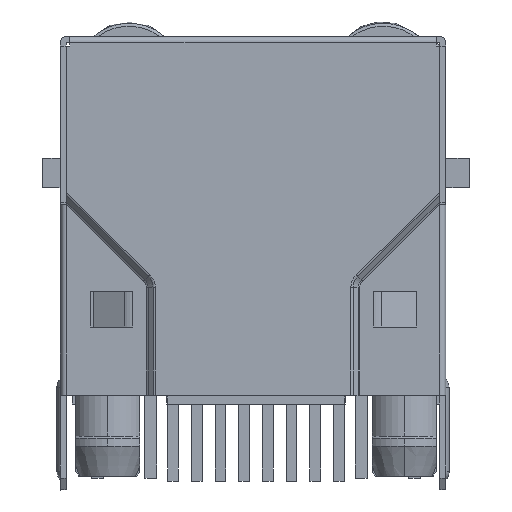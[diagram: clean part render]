
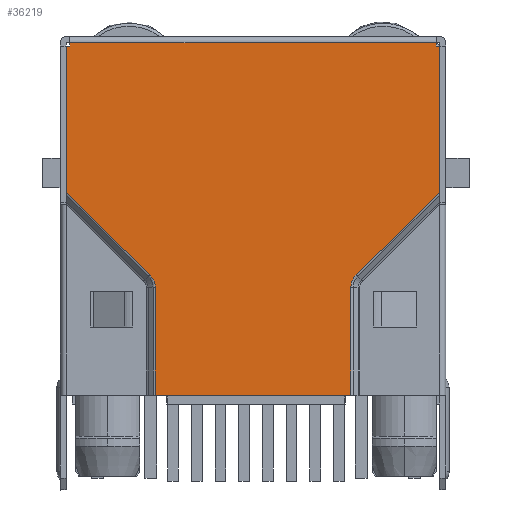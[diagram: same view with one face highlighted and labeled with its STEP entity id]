
A CAD part, front view. The second image highlights one B-rep face of the part: STEP entity #36219.
In plain terms, the highlighted planar face has unit normal (0, -1, 0).
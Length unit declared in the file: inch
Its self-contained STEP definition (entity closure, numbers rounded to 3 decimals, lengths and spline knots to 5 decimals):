
#2329 = CARTESIAN_POINT ( 'NONE',  ( 0.309, -0.267, 0.3428 ) ) ;
#4173 = FACE_OUTER_BOUND ( 'NONE', #66199, .T. ) ;
#4798 = DIRECTION ( 'NONE',  ( -1., 0., 0. ) ) ;
#5114 = CARTESIAN_POINT ( 'NONE',  ( -0.31393, -0.267, 0.3428 ) ) ;
#5221 = CARTESIAN_POINT ( 'NONE',  ( -0.17, -0.267, -0.06435 ) ) ;
#6119 = EDGE_CURVE ( 'NONE', #28499, #51978, #16279, .T. ) ;
#6161 = PLANE ( 'NONE',  #34336 ) ;
#6546 = VECTOR ( 'NONE', #22246, 39.37008 ) ;
#7888 = CARTESIAN_POINT ( 'NONE',  ( 0.309, -0.267, -0.24613 ) ) ;
#8017 = VERTEX_POINT ( 'NONE', #24088 ) ;
#8038 = VECTOR ( 'NONE', #43472, 39.37008 ) ;
#8440 = DIRECTION ( 'NONE',  ( 0., 0., -1. ) ) ;
#9686 = VERTEX_POINT ( 'NONE', #40848 ) ;
#9905 = CARTESIAN_POINT ( 'NONE',  ( 0.16004, -0.267, -0.05634 ) ) ;
#10605 = LINE ( 'NONE', #26079, #35769 ) ;
#12004 = CARTESIAN_POINT ( 'NONE',  ( 0.30393, -0.267, -0.24613 ) ) ;
#12028 = CARTESIAN_POINT ( 'NONE',  ( -0.31393, -0.267, 0.34887 ) ) ;
#12135 = ORIENTED_EDGE ( 'NONE', *, *, #49305, .T. ) ;
#14713 = VECTOR ( 'NONE', #18457, 39.37008 ) ;
#14862 = CARTESIAN_POINT ( 'NONE',  ( 0.16888, -0.267, -0.04305 ) ) ;
#14997 = DIRECTION ( 'NONE',  ( 0., 0., 1. ) ) ;
#15912 = DIRECTION ( 'NONE',  ( -1., 0., 0. ) ) ;
#16150 = DIRECTION ( 'NONE',  ( 0., 0., -1. ) ) ;
#16279 = B_SPLINE_CURVE_WITH_KNOTS ( 'NONE', 3,
 ( #25052, #9905, #46209, #14862 ),
 .UNSPECIFIED., .F., .F.,
 ( 4, 4 ),
 ( 0., 1. ),
 .UNSPECIFIED. ) ;
#18457 = DIRECTION ( 'NONE',  ( 1., 0., 0. ) ) ;
#18504 = ORIENTED_EDGE ( 'NONE', *, *, #44318, .T. ) ;
#19200 = EDGE_CURVE ( 'NONE', #19204, #22280, #51598, .T. ) ;
#19204 = VERTEX_POINT ( 'NONE', #43837 ) ;
#19415 = ORIENTED_EDGE ( 'NONE', *, *, #35134, .T. ) ;
#20129 = CARTESIAN_POINT ( 'NONE',  ( -0.17004, -0.267, -0.0562 ) ) ;
#20811 = CARTESIAN_POINT ( 'NONE',  ( 0.16, -0.267, -0.24613 ) ) ;
#21183 = LINE ( 'NONE', #7888, #14713 ) ;
#21765 = LINE ( 'NONE', #2329, #8038 ) ;
#21774 = EDGE_CURVE ( 'NONE', #42770, #8017, #34918, .T. ) ;
#22246 = DIRECTION ( 'NONE',  ( 0., 0., -1. ) ) ;
#22280 = VERTEX_POINT ( 'NONE', #33316 ) ;
#22800 = DIRECTION ( 'NONE',  ( 0.71, 0., 0.704 ) ) ;
#24088 = CARTESIAN_POINT ( 'NONE',  ( -0.319, -0.267, 0.09587 ) ) ;
#24449 = CARTESIAN_POINT ( 'NONE',  ( 0.16888, -0.267, -0.04305 ) ) ;
#24624 = ORIENTED_EDGE ( 'NONE', *, *, #32578, .T. ) ;
#24898 = VECTOR ( 'NONE', #4798, 39.37008 ) ;
#24977 = CARTESIAN_POINT ( 'NONE',  ( 0.309, -0.267, 0.3428 ) ) ;
#25052 = CARTESIAN_POINT ( 'NONE',  ( 0.16, -0.267, -0.06435 ) ) ;
#26079 = CARTESIAN_POINT ( 'NONE',  ( 0.309, -0.267, 0.34887 ) ) ;
#26166 = DIRECTION ( 'NONE',  ( 0.71, 0., -0.704 ) ) ;
#27968 = VECTOR ( 'NONE', #26166, 39.37008 ) ;
#28499 = VERTEX_POINT ( 'NONE', #30786 ) ;
#28583 = LINE ( 'NONE', #12004, #53807 ) ;
#29331 = VERTEX_POINT ( 'NONE', #5114 ) ;
#29523 = ORIENTED_EDGE ( 'NONE', *, *, #65834, .T. ) ;
#30368 = LINE ( 'NONE', #61792, #27968 ) ;
#30786 = CARTESIAN_POINT ( 'NONE',  ( 0.16, -0.267, -0.06435 ) ) ;
#30880 = ORIENTED_EDGE ( 'NONE', *, *, #19200, .T. ) ;
#31283 = CARTESIAN_POINT ( 'NONE',  ( -0.17888, -0.267, -0.04305 ) ) ;
#32578 = EDGE_CURVE ( 'NONE', #54998, #44197, #28583, .T. ) ;
#33316 = CARTESIAN_POINT ( 'NONE',  ( 0.309, -0.267, 0.3428 ) ) ;
#33510 = ORIENTED_EDGE ( 'NONE', *, *, #61833, .T. ) ;
#33568 = CARTESIAN_POINT ( 'NONE',  ( 0.309, -0.267, -0.24613 ) ) ;
#33927 = VECTOR ( 'NONE', #8440, 39.37008 ) ;
#34336 = AXIS2_PLACEMENT_3D ( 'NONE', #62913, #47277, #16150 ) ;
#34585 = EDGE_CURVE ( 'NONE', #62192, #29331, #49434, .T. ) ;
#34918 = LINE ( 'NONE', #54233, #6546 ) ;
#35134 = EDGE_CURVE ( 'NONE', #51978, #19204, #43554, .T. ) ;
#35769 = VECTOR ( 'NONE', #15912, 39.37008 ) ;
#36116 = VECTOR ( 'NONE', #46570, 39.37008 ) ;
#36219 = ADVANCED_FACE ( 'NONE', ( #4173 ), #6161, .T. ) ;
#36387 = CARTESIAN_POINT ( 'NONE',  ( 0.30393, -0.267, 0.3428 ) ) ;
#36945 = ORIENTED_EDGE ( 'NONE', *, *, #6119, .T. ) ;
#37886 = LINE ( 'NONE', #24977, #24898 ) ;
#38040 = DIRECTION ( 'NONE',  ( 0., 0., 1. ) ) ;
#38395 = LINE ( 'NONE', #66988, #48968 ) ;
#39635 = CARTESIAN_POINT ( 'NONE',  ( -0.17, -0.267, -0.24613 ) ) ;
#40423 = VERTEX_POINT ( 'NONE', #31283 ) ;
#40848 = CARTESIAN_POINT ( 'NONE',  ( -0.17, -0.267, -0.06435 ) ) ;
#41564 = CARTESIAN_POINT ( 'NONE',  ( -0.17, -0.267, -0.24613 ) ) ;
#41769 = ORIENTED_EDGE ( 'NONE', *, *, #65334, .T. ) ;
#42770 = VERTEX_POINT ( 'NONE', #60703 ) ;
#42927 = ORIENTED_EDGE ( 'NONE', *, *, #49026, .T. ) ;
#43472 = DIRECTION ( 'NONE',  ( -1., 0., 0. ) ) ;
#43554 = LINE ( 'NONE', #53922, #50011 ) ;
#43837 = CARTESIAN_POINT ( 'NONE',  ( 0.309, -0.267, 0.09587 ) ) ;
#44197 = VERTEX_POINT ( 'NONE', #66092 ) ;
#44318 = EDGE_CURVE ( 'NONE', #9686, #64561, #49884, .T. ) ;
#45133 = EDGE_CURVE ( 'NONE', #64561, #60190, #21183, .T. ) ;
#46209 = CARTESIAN_POINT ( 'NONE',  ( 0.16311, -0.267, -0.04882 ) ) ;
#46570 = DIRECTION ( 'NONE',  ( 0., 0., -1. ) ) ;
#47277 = DIRECTION ( 'NONE',  ( 0., -1., 0. ) ) ;
#47401 = ORIENTED_EDGE ( 'NONE', *, *, #45133, .T. ) ;
#48968 = VECTOR ( 'NONE', #14997, 39.37008 ) ;
#49026 = EDGE_CURVE ( 'NONE', #22280, #54998, #21765, .T. ) ;
#49305 = EDGE_CURVE ( 'NONE', #29331, #42770, #37886, .T. ) ;
#49434 = LINE ( 'NONE', #60320, #33927 ) ;
#49884 = LINE ( 'NONE', #41564, #36116 ) ;
#50011 = VECTOR ( 'NONE', #22800, 39.37008 ) ;
#51598 = LINE ( 'NONE', #33568, #61372 ) ;
#51978 = VERTEX_POINT ( 'NONE', #24449 ) ;
#53807 = VECTOR ( 'NONE', #38040, 39.37008 ) ;
#53922 = CARTESIAN_POINT ( 'NONE',  ( 0.16888, -0.267, -0.04305 ) ) ;
#54233 = CARTESIAN_POINT ( 'NONE',  ( -0.319, -0.267, -0.24613 ) ) ;
#54998 = VERTEX_POINT ( 'NONE', #36387 ) ;
#55906 = ORIENTED_EDGE ( 'NONE', *, *, #21774, .T. ) ;
#57662 = B_SPLINE_CURVE_WITH_KNOTS ( 'NONE', 3,
 ( #60299, #65587, #20129, #5221 ),
 .UNSPECIFIED., .F., .F.,
 ( 4, 4 ),
 ( 0., 1. ),
 .UNSPECIFIED. ) ;
#58753 = DIRECTION ( 'NONE',  ( 0., 0., 1. ) ) ;
#60164 = EDGE_CURVE ( 'NONE', #44197, #62192, #10605, .T. ) ;
#60190 = VERTEX_POINT ( 'NONE', #20811 ) ;
#60299 = CARTESIAN_POINT ( 'NONE',  ( -0.17888, -0.267, -0.04305 ) ) ;
#60320 = CARTESIAN_POINT ( 'NONE',  ( -0.31393, -0.267, -0.24613 ) ) ;
#60614 = ORIENTED_EDGE ( 'NONE', *, *, #34585, .T. ) ;
#60703 = CARTESIAN_POINT ( 'NONE',  ( -0.319, -0.267, 0.3428 ) ) ;
#61372 = VECTOR ( 'NONE', #58753, 39.37008 ) ;
#61643 = ORIENTED_EDGE ( 'NONE', *, *, #60164, .T. ) ;
#61792 = CARTESIAN_POINT ( 'NONE',  ( -0.319, -0.267, 0.09587 ) ) ;
#61833 = EDGE_CURVE ( 'NONE', #40423, #9686, #57662, .T. ) ;
#62192 = VERTEX_POINT ( 'NONE', #12028 ) ;
#62913 = CARTESIAN_POINT ( 'NONE',  ( 0.309, -0.267, -0.24613 ) ) ;
#64561 = VERTEX_POINT ( 'NONE', #39635 ) ;
#65334 = EDGE_CURVE ( 'NONE', #8017, #40423, #30368, .T. ) ;
#65587 = CARTESIAN_POINT ( 'NONE',  ( -0.17321, -0.267, -0.04872 ) ) ;
#65834 = EDGE_CURVE ( 'NONE', #60190, #28499, #38395, .T. ) ;
#66092 = CARTESIAN_POINT ( 'NONE',  ( 0.30393, -0.267, 0.34887 ) ) ;
#66199 = EDGE_LOOP ( 'NONE', ( #19415, #30880, #42927, #24624, #61643, #60614, #12135, #55906, #41769, #33510, #18504, #47401, #29523, #36945 ) ) ;
#66988 = CARTESIAN_POINT ( 'NONE',  ( 0.16, -0.267, -0.24613 ) ) ;
